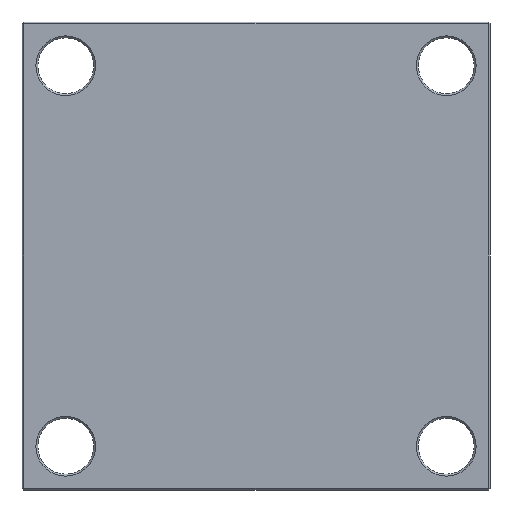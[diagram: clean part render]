
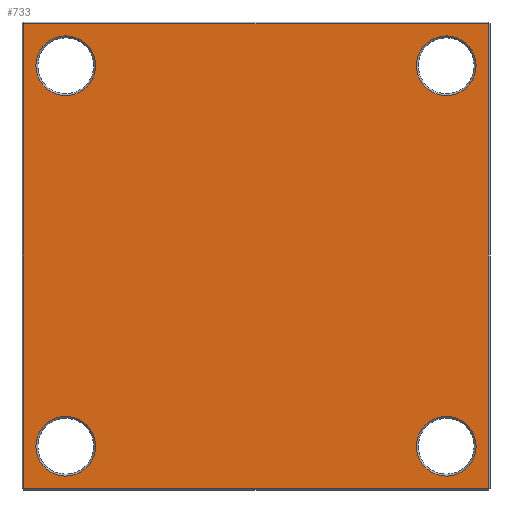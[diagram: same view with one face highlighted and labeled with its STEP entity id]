
A CAD part, front view. The second image highlights one B-rep face of the part: STEP entity #733.
In plain terms, the highlighted planar face has unit normal (0, -1, 0).
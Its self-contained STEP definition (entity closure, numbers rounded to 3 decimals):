
#52 = CARTESIAN_POINT ( 'NONE',  ( -122., 0., 0. ) ) ;
#59 = AXIS2_PLACEMENT_3D ( 'NONE', #207, #230, #882 ) ;
#95 = EDGE_CURVE ( 'NONE', #1575, #518, #1698, .T. ) ;
#133 = EDGE_CURVE ( 'NONE', #639, #1092, #1748, .T. ) ;
#158 = EDGE_CURVE ( 'NONE', #518, #1575, #783, .T. ) ;
#177 = CIRCLE ( 'NONE', #1076, 15.7 ) ;
#181 = CARTESIAN_POINT ( 'NONE',  ( 100., 0., 100. ) ) ;
#197 = VERTEX_POINT ( 'NONE', #1627 ) ;
#207 = CARTESIAN_POINT ( 'NONE',  ( -100., 0., -100. ) ) ;
#228 = EDGE_CURVE ( 'NONE', #415, #1605, #304, .T. ) ;
#230 = DIRECTION ( 'NONE',  ( 0., 1., 0. ) ) ;
#240 = CARTESIAN_POINT ( 'NONE',  ( -100., 0., 84.3 ) ) ;
#246 = ORIENTED_EDGE ( 'NONE', *, *, #95, .T. ) ;
#259 = CIRCLE ( 'NONE', #530, 15.7 ) ;
#290 = ORIENTED_EDGE ( 'NONE', *, *, #1215, .T. ) ;
#300 = CARTESIAN_POINT ( 'NONE',  ( -100., 0., -84.3 ) ) ;
#304 = CIRCLE ( 'NONE', #1700, 15.7 ) ;
#316 = VERTEX_POINT ( 'NONE', #300 ) ;
#331 = CARTESIAN_POINT ( 'NONE',  ( 100., 0., 115.7 ) ) ;
#345 = CARTESIAN_POINT ( 'NONE',  ( 100., 0., 84.3 ) ) ;
#369 = CARTESIAN_POINT ( 'NONE',  ( 100., 0., -84.3 ) ) ;
#372 = ORIENTED_EDGE ( 'NONE', *, *, #133, .T. ) ;
#415 = VERTEX_POINT ( 'NONE', #345 ) ;
#427 = CARTESIAN_POINT ( 'NONE',  ( 122., 0., 0. ) ) ;
#439 = ORIENTED_EDGE ( 'NONE', *, *, #228, .T. ) ;
#456 = EDGE_CURVE ( 'NONE', #197, #316, #1098, .T. ) ;
#472 = ORIENTED_EDGE ( 'NONE', *, *, #1055, .T. ) ;
#482 = FACE_OUTER_BOUND ( 'NONE', #1474, .T. ) ;
#487 = CIRCLE ( 'NONE', #1393, 15.7 ) ;
#518 = VERTEX_POINT ( 'NONE', #712 ) ;
#530 = AXIS2_PLACEMENT_3D ( 'NONE', #1054, #1060, #1162 ) ;
#533 = FACE_BOUND ( 'NONE', #1830, .T. ) ;
#566 = ORIENTED_EDGE ( 'NONE', *, *, #959, .T. ) ;
#608 = DIRECTION ( 'NONE',  ( 1., 0., 0. ) ) ;
#613 = EDGE_CURVE ( 'NONE', #2172, #1757, #1665, .T. ) ;
#618 = ORIENTED_EDGE ( 'NONE', *, *, #1128, .T. ) ;
#639 = VERTEX_POINT ( 'NONE', #787 ) ;
#712 = CARTESIAN_POINT ( 'NONE',  ( -100., 0., 115.7 ) ) ;
#722 = CARTESIAN_POINT ( 'NONE',  ( -100., 0., 100. ) ) ;
#733 = ADVANCED_FACE ( 'NONE', ( #1332, #928, #1793, #533, #482 ), #1280, .F. ) ;
#737 = DIRECTION ( 'NONE',  ( 0., 0., -1. ) ) ;
#740 = EDGE_CURVE ( 'NONE', #1193, #2172, #1286, .T. ) ;
#743 = DIRECTION ( 'NONE',  ( 0., 1., 0. ) ) ;
#755 = DIRECTION ( 'NONE',  ( 0., 0., 1. ) ) ;
#757 = CARTESIAN_POINT ( 'NONE',  ( -100., 0., -100. ) ) ;
#767 = DIRECTION ( 'NONE',  ( 0., 1., 0. ) ) ;
#783 = CIRCLE ( 'NONE', #1254, 15.7 ) ;
#787 = CARTESIAN_POINT ( 'NONE',  ( 100., 0., -115.7 ) ) ;
#832 = EDGE_LOOP ( 'NONE', ( #837, #618 ) ) ;
#834 = AXIS2_PLACEMENT_3D ( 'NONE', #722, #743, #755 ) ;
#837 = ORIENTED_EDGE ( 'NONE', *, *, #456, .T. ) ;
#872 = EDGE_LOOP ( 'NONE', ( #372, #566 ) ) ;
#882 = DIRECTION ( 'NONE',  ( 0., 0., 1. ) ) ;
#911 = DIRECTION ( 'NONE',  ( 0., 0., 1. ) ) ;
#926 = ORIENTED_EDGE ( 'NONE', *, *, #1194, .T. ) ;
#928 = FACE_BOUND ( 'NONE', #872, .T. ) ;
#929 = CARTESIAN_POINT ( 'NONE',  ( 122., 0., -122. ) ) ;
#941 = CARTESIAN_POINT ( 'NONE',  ( 0., 0., -122. ) ) ;
#959 = EDGE_CURVE ( 'NONE', #1092, #639, #259, .T. ) ;
#1046 = DIRECTION ( 'NONE',  ( 0., 1., 0. ) ) ;
#1047 = AXIS2_PLACEMENT_3D ( 'NONE', #1436, #1946, #1932 ) ;
#1054 = CARTESIAN_POINT ( 'NONE',  ( 100., 0., -100. ) ) ;
#1055 = EDGE_CURVE ( 'NONE', #1605, #415, #177, .T. ) ;
#1060 = DIRECTION ( 'NONE',  ( 0., 1., 0. ) ) ;
#1076 = AXIS2_PLACEMENT_3D ( 'NONE', #181, #1046, #1190 ) ;
#1092 = VERTEX_POINT ( 'NONE', #369 ) ;
#1098 = CIRCLE ( 'NONE', #59, 15.7 ) ;
#1106 = VERTEX_POINT ( 'NONE', #2050 ) ;
#1128 = EDGE_CURVE ( 'NONE', #316, #197, #487, .T. ) ;
#1145 = AXIS2_PLACEMENT_3D ( 'NONE', #1464, #1466, #1471 ) ;
#1162 = DIRECTION ( 'NONE',  ( 0., 0., 1. ) ) ;
#1188 = VECTOR ( 'NONE', #1721, 1000. ) ;
#1190 = DIRECTION ( 'NONE',  ( 0., 0., 1. ) ) ;
#1193 = VERTEX_POINT ( 'NONE', #1577 ) ;
#1194 = EDGE_CURVE ( 'NONE', #1757, #1106, #1648, .T. ) ;
#1215 = EDGE_CURVE ( 'NONE', #1106, #1193, #2026, .T. ) ;
#1254 = AXIS2_PLACEMENT_3D ( 'NONE', #1530, #1536, #1543 ) ;
#1280 = PLANE ( 'NONE',  #1047 ) ;
#1286 = LINE ( 'NONE', #941, #2175 ) ;
#1332 = FACE_BOUND ( 'NONE', #832, .T. ) ;
#1377 = CARTESIAN_POINT ( 'NONE',  ( 0., 0., 122. ) ) ;
#1390 = DIRECTION ( 'NONE',  ( 0., 0., 1. ) ) ;
#1393 = AXIS2_PLACEMENT_3D ( 'NONE', #757, #767, #911 ) ;
#1436 = CARTESIAN_POINT ( 'NONE',  ( 0., 0., 0. ) ) ;
#1457 = CARTESIAN_POINT ( 'NONE',  ( 122., 0., 122. ) ) ;
#1464 = CARTESIAN_POINT ( 'NONE',  ( 100., 0., -100. ) ) ;
#1466 = DIRECTION ( 'NONE',  ( 0., 1., 0. ) ) ;
#1471 = DIRECTION ( 'NONE',  ( 0., 0., 1. ) ) ;
#1474 = EDGE_LOOP ( 'NONE', ( #2047, #926, #290, #1965 ) ) ;
#1530 = CARTESIAN_POINT ( 'NONE',  ( -100., 0., 100. ) ) ;
#1536 = DIRECTION ( 'NONE',  ( 0., 1., 0. ) ) ;
#1543 = DIRECTION ( 'NONE',  ( 0., 0., 1. ) ) ;
#1575 = VERTEX_POINT ( 'NONE', #240 ) ;
#1577 = CARTESIAN_POINT ( 'NONE',  ( -122., 0., -122. ) ) ;
#1592 = VECTOR ( 'NONE', #737, 1000. ) ;
#1605 = VERTEX_POINT ( 'NONE', #331 ) ;
#1616 = VECTOR ( 'NONE', #1390, 1000. ) ;
#1627 = CARTESIAN_POINT ( 'NONE',  ( -100., 0., -115.7 ) ) ;
#1648 = LINE ( 'NONE', #1377, #1188 ) ;
#1665 = LINE ( 'NONE', #427, #1616 ) ;
#1698 = CIRCLE ( 'NONE', #834, 15.7 ) ;
#1700 = AXIS2_PLACEMENT_3D ( 'NONE', #1805, #1808, #1822 ) ;
#1721 = DIRECTION ( 'NONE',  ( -1., 0., 0. ) ) ;
#1748 = CIRCLE ( 'NONE', #1145, 15.7 ) ;
#1757 = VERTEX_POINT ( 'NONE', #1457 ) ;
#1793 = FACE_BOUND ( 'NONE', #1916, .T. ) ;
#1805 = CARTESIAN_POINT ( 'NONE',  ( 100., 0., 100. ) ) ;
#1808 = DIRECTION ( 'NONE',  ( 0., 1., 0. ) ) ;
#1822 = DIRECTION ( 'NONE',  ( 0., 0., 1. ) ) ;
#1830 = EDGE_LOOP ( 'NONE', ( #246, #1945 ) ) ;
#1916 = EDGE_LOOP ( 'NONE', ( #439, #472 ) ) ;
#1932 = DIRECTION ( 'NONE',  ( 0., 0., 1. ) ) ;
#1945 = ORIENTED_EDGE ( 'NONE', *, *, #158, .T. ) ;
#1946 = DIRECTION ( 'NONE',  ( 0., 1., 0. ) ) ;
#1965 = ORIENTED_EDGE ( 'NONE', *, *, #740, .T. ) ;
#2026 = LINE ( 'NONE', #52, #1592 ) ;
#2047 = ORIENTED_EDGE ( 'NONE', *, *, #613, .T. ) ;
#2050 = CARTESIAN_POINT ( 'NONE',  ( -122., 0., 122. ) ) ;
#2172 = VERTEX_POINT ( 'NONE', #929 ) ;
#2175 = VECTOR ( 'NONE', #608, 1000. ) ;
